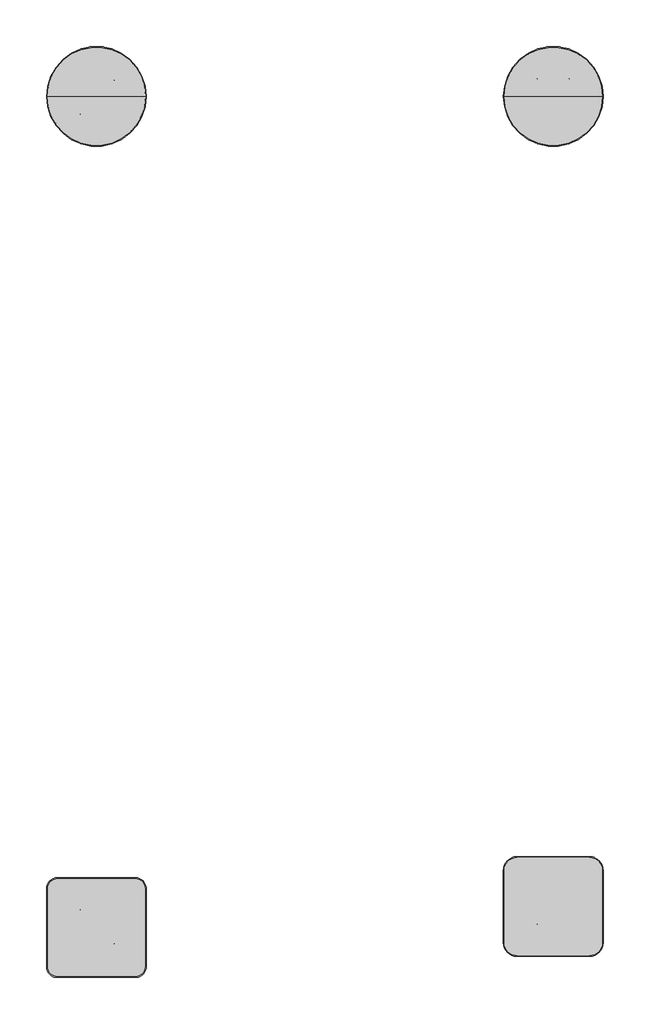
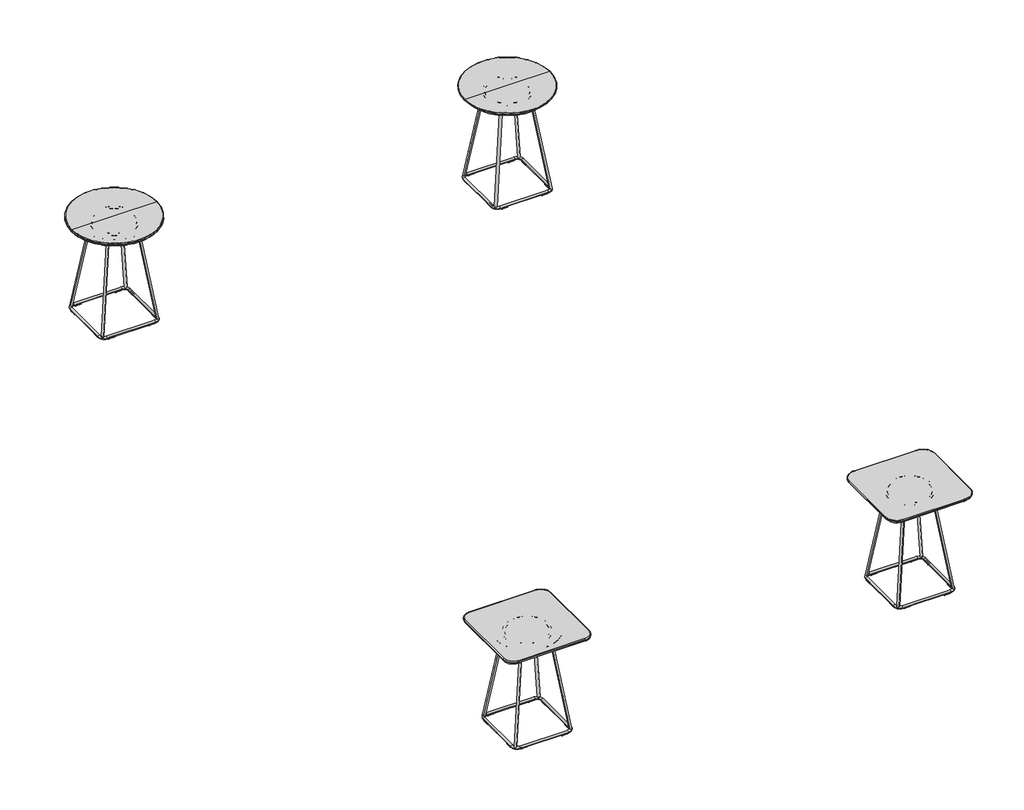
# Not in any storey, incomplete: 4 furniture elements.
"""IFC4 building model written with IfcOpenShell, lengths in millimetres."""

from ifc_helpers import new_model, si_unit, origin, place, context, project, spatial, transform, mapped, element, save
from components import furniture_25530727, furniture_40e74869, furniture_1bf04262, furniture_d069a90b

model = new_model("IFC4")

# Units and contexts
model_context = context("Model", 3, world=origin())
ifc_project = project(units=[si_unit("LENGTHUNIT", "METRE", prefix="MILLI")], contexts=[model_context])

# Site, building
site = spatial("IfcSite", under=ifc_project)
building = spatial("IfcBuilding", under=site)

# Furniture
placement = place(None, origin())
furniture_shape = furniture_25530727(model_context)
element("IfcFurniture", 1, ObjectType="Stance_HC-Tully-Round_Table : TUTF18R22-T", at=placement, inside=building, context=model_context, shape_type="MappedRepresentation", body=[
    mapped(furniture_shape, transform((-11765.0768648, 13705.7060475, 0.0), x_axis=(1.0, 0.0, 0.0), y_axis=(0.0, 1.0, 0.0), z_axis=(0.0, 0.0, 1.0))),
])
furniture_2_shape = furniture_40e74869(model_context)
element("IfcFurniture", 2, ObjectType="Stance_HC-Tully-Round_Table : TUTF18R22-S", at=placement, inside=building, context=model_context, shape_type="MappedRepresentation", body=[
    mapped(furniture_2_shape, transform((-13859.4294003, 13705.7060475, 0.0), x_axis=(1.0, 0.0, 0.0), y_axis=(0.0, 1.0, 0.0), z_axis=(0.0, 0.0, 1.0))),
])
furniture_3_shape = furniture_1bf04262(model_context)
element("IfcFurniture", 3, ObjectType="Stance_HC-Tully-Square_Table : TUTF181822-T", at=placement, inside=building, context=model_context, shape_type="MappedRepresentation", body=[
    mapped(furniture_3_shape, transform((-11765.0768648, 9991.9282647, 0.0), x_axis=(1.0, 0.0, 0.0), y_axis=(0.0, 1.0, 0.0), z_axis=(0.0, 0.0, 1.0))),
])
furniture_4_shape = furniture_d069a90b(model_context)
element("IfcFurniture", 4, ObjectType="Stance_HC-Tully-Square_Table : TUTF181822-S", at=placement, inside=building, context=model_context, shape_type="MappedRepresentation", body=[
    mapped(furniture_4_shape, transform((-13859.4294003, 9895.5513716, 0.0), x_axis=(1.0, 0.0, 0.0), y_axis=(0.0, 1.0, 0.0), z_axis=(0.0, 0.0, 1.0))),
])

save(model, "model.ifc")
